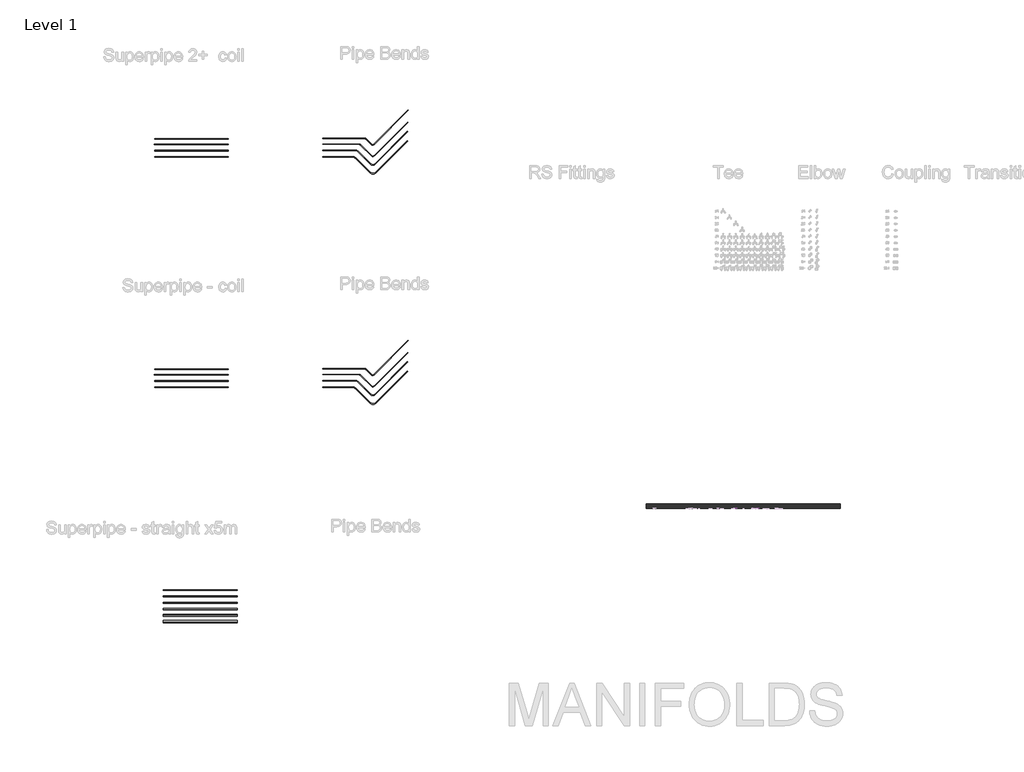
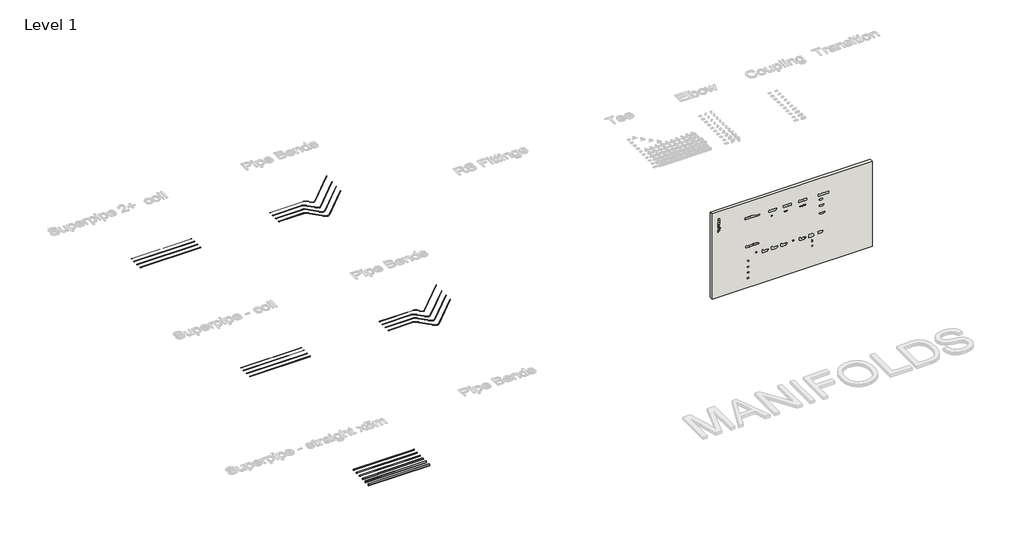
# One storey, part 1 of 57: 38 pipe segments, 16 pipe fittings, 3 valves, 1 wall.
"""IFC4 building model written with IfcOpenShell, lengths in millimetres."""

from ifc_helpers import new_model, si_unit, point, frame, frame_2d, origin, place, context, project, spatial, polyline, circle_curve, trimmed, segment, composite_curve, outline, extrude, transform, mapped, element, save
from components import pipe_bend_eb0728c1, pipe_bend_d9dde6bf, pipe_bend_f4e2ce4f, pipe_bend_7dc21ba6, pipe_bend_fe3f6248, pipe_bend_82ffcff3, pipe_bend_90816637, pipe_bend_7fa1795d, mounting_plate_curved_ba3850a4, mounting_plate_double_c830053c, mounting_plate_single_762f868f

model = new_model("IFC4")

# Units and contexts
model_context = context("Model", 3, world=origin())
ifc_project = project(units=[si_unit("LENGTHUNIT", "METRE", prefix="MILLI")], contexts=[model_context])

# Site, building, storey
site = spatial("IfcSite", under=ifc_project)
building = spatial("IfcBuilding", under=site)
storey = spatial("IfcBuildingStorey", under=building, Name="Level 1", Elevation=27.3876384)

# Pipe fittings
placement = place(None, origin())
pipe_bend_shape = pipe_bend_eb0728c1(model_context)
element("IfcPipeFitting", 1, ObjectType="Pipe Bend : Superpipe Pipe bend", at=placement, inside=storey, context=model_context, shape_type="MappedRepresentation", body=[
    mapped(pipe_bend_shape, transform((-3369.3253653, 10832.9038637, 27.3876384), x_axis=(0.7071067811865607, -0.7071067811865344, 0.0), y_axis=(0.7071067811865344, 0.7071067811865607, 0.0), z_axis=(0.0, 0.0, 1.0))),
])
pipe_bend_2_shape = pipe_bend_d9dde6bf(model_context)
element("IfcPipeFitting", 2, ObjectType="Pipe Bend : Superpipe 2-MAX Pipe bend", at=placement, inside=storey, context=model_context, shape_type="MappedRepresentation", body=[
    mapped(pipe_bend_2_shape, transform((-4101.9762256, 21538.9696271, 27.3876384), x_axis=(-0.7071067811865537, 0.7071067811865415, 0.0), y_axis=(-0.7071067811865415, -0.7071067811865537, 0.0), z_axis=(0.0, 0.0, 1.0))),
])
pipe_bend_3_shape = pipe_bend_f4e2ce4f(model_context)
element("IfcPipeFitting", 3, ObjectType="Pipe Bend : Superpipe 2-MAX Pipe bend", at=placement, inside=storey, context=model_context, shape_type="MappedRepresentation", body=[
    mapped(pipe_bend_3_shape, transform((-3359.3966856, 20796.390087, 27.3876384), x_axis=(0.7071067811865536, -0.7071067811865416, 0.0), y_axis=(0.7071067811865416, 0.7071067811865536, 0.0), z_axis=(0.0, 0.0, 1.0))),
])
pipe_bend_4_shape = pipe_bend_7dc21ba6(model_context)
element("IfcPipeFitting", 4, ObjectType="Pipe Bend : Superpipe 2-MAX Pipe bend", at=placement, inside=storey, context=model_context, shape_type="MappedRepresentation", body=[
    mapped(pipe_bend_4_shape, transform((-4228.2285194, 21234.1696271, 27.3876384), x_axis=(-0.7071067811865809, 0.7071067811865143, 0.0), y_axis=(-0.7071067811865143, -0.7071067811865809, 0.0), z_axis=(0.0, 0.0, 1.0))),
])
pipe_bend_5_shape = pipe_bend_fe3f6248(model_context)
element("IfcPipeFitting", 5, ObjectType="Pipe Bend : Superpipe 2-MAX Pipe bend", at=placement, inside=storey, context=model_context, shape_type="MappedRepresentation", body=[
    mapped(pipe_bend_5_shape, transform((-3359.5381069, 20365.4792146, 27.3876384), x_axis=(0.7071067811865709, -0.7071067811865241, 0.0), y_axis=(0.7071067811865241, 0.7071067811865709, 0.0), z_axis=(0.0, 0.0, 1.0))),
])
pipe_bend_6_shape = pipe_bend_82ffcff3(model_context)
element("IfcPipeFitting", 6, ObjectType="Pipe Bend : Superpipe 2-MAX Pipe bend", at=placement, inside=storey, context=model_context, shape_type="MappedRepresentation", body=[
    mapped(pipe_bend_6_shape, transform((-3712.611924, 22115.3990822, 27.3876384), x_axis=(-0.7071067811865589, 0.7071067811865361, 0.0), y_axis=(-0.7071067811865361, -0.7071067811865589, 0.0), z_axis=(0.0, 0.0, 1.0))),
])
pipe_bend_7_shape = pipe_bend_90816637(model_context)
element("IfcPipeFitting", 7, ObjectType="Pipe Bend : Superpipe 2-MAX Pipe bend", at=placement, inside=storey, context=model_context, shape_type="MappedRepresentation", body=[
    mapped(pipe_bend_7_shape, transform((-3977.7121569, 21838.9696271, 27.3876384), x_axis=(-0.7071067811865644, 0.7071067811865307, 0.0), y_axis=(-0.7071067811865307, -0.7071067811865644, 0.0), z_axis=(0.0, 0.0, 1.0))),
])
pipe_bend_8_shape = pipe_bend_7fa1795d(model_context)
element("IfcPipeFitting", 8, ObjectType="Pipe Bend : Superpipe 2-MAX Pipe bend", at=placement, inside=storey, context=model_context, shape_type="MappedRepresentation", body=[
    mapped(pipe_bend_8_shape, transform((-3359.3966856, 21220.6541558, 27.3876384), x_axis=(0.7071067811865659, -0.7071067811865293, 0.0), y_axis=(0.7071067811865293, 0.7071067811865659, 0.0), z_axis=(0.0, 0.0, 1.0))),
])
element("IfcPipeFitting", 9, ObjectType="Pipe Bend : Superpipe Pipe bend", at=placement, inside=storey, context=model_context, shape_type="MappedRepresentation", body=[
    mapped(pipe_bend_2_shape, transform((-4101.9762256, 10599.7609672, 27.3876384), x_axis=(-0.7071067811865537, 0.7071067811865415, 0.0), y_axis=(-0.7071067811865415, -0.7071067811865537, 0.0), z_axis=(0.0, 0.0, 1.0))),
])
element("IfcPipeFitting", 10, ObjectType="Pipe Bend : Superpipe Pipe bend", at=placement, inside=storey, context=model_context, shape_type="MappedRepresentation", body=[
    mapped(pipe_bend_3_shape, transform((-3359.3966856, 9857.1814272, 27.3876384), x_axis=(0.7071067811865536, -0.7071067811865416, 0.0), y_axis=(0.7071067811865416, 0.7071067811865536, 0.0), z_axis=(0.0, 0.0, 1.0))),
])
element("IfcPipeFitting", 11, ObjectType="Pipe Bend : Superpipe Pipe bend", at=placement, inside=storey, context=model_context, shape_type="MappedRepresentation", body=[
    mapped(pipe_bend_4_shape, transform((-4228.2285194, 10294.9609672, 27.3876384), x_axis=(-0.7071067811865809, 0.7071067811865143, 0.0), y_axis=(-0.7071067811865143, -0.7071067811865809, 0.0), z_axis=(0.0, 0.0, 1.0))),
])
element("IfcPipeFitting", 12, ObjectType="Pipe Bend : Superpipe Pipe bend", at=placement, inside=storey, context=model_context, shape_type="MappedRepresentation", body=[
    mapped(pipe_bend_5_shape, transform((-3359.5381069, 9426.2705547, 27.3876384), x_axis=(0.7071067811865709, -0.7071067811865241, 0.0), y_axis=(0.7071067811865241, 0.7071067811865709, 0.0), z_axis=(0.0, 0.0, 1.0))),
])
element("IfcPipeFitting", 13, ObjectType="Pipe Bend : Superpipe Pipe bend", at=placement, inside=storey, context=model_context, shape_type="MappedRepresentation", body=[
    mapped(pipe_bend_6_shape, transform((-3712.611924, 11176.1904223, 27.3876384), x_axis=(-0.7071067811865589, 0.7071067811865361, 0.0), y_axis=(-0.7071067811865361, -0.7071067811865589, 0.0), z_axis=(0.0, 0.0, 1.0))),
])
element("IfcPipeFitting", 14, ObjectType="Pipe Bend : Superpipe Pipe bend", at=placement, inside=storey, context=model_context, shape_type="MappedRepresentation", body=[
    mapped(pipe_bend_7_shape, transform((-3977.7121569, 10899.7609672, 27.3876384), x_axis=(-0.7071067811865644, 0.7071067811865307, 0.0), y_axis=(-0.7071067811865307, -0.7071067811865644, 0.0), z_axis=(0.0, 0.0, 1.0))),
])
element("IfcPipeFitting", 15, ObjectType="Pipe Bend : Superpipe Pipe bend", at=placement, inside=storey, context=model_context, shape_type="MappedRepresentation", body=[
    mapped(pipe_bend_8_shape, transform((-3359.3966856, 10281.4454959, 27.3876384), x_axis=(0.7071067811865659, -0.7071067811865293, 0.0), y_axis=(0.7071067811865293, 0.7071067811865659, 0.0), z_axis=(0.0, 0.0, 1.0))),
])
element("IfcPipeFitting", 16, ObjectType="Pipe Bend : Superpipe 2-MAX Pipe bend", at=placement, inside=storey, context=model_context, shape_type="MappedRepresentation", body=[
    mapped(pipe_bend_shape, transform((-3369.3253653, 21772.1125236, 27.3876384), x_axis=(0.7071067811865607, -0.7071067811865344, 0.0), y_axis=(0.7071067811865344, 0.7071067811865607, 0.0), z_axis=(0.0, 0.0, 1.0))),
])

# Pipe segments
element("IfcPipeSegment", 17, ObjectType="Superpipe - straight x5m", at=placement, inside=storey, context=model_context, shape_type="SweptSolid", body=[
    extrude(outline(composite_curve([segment(trimmed(circle_curve(frame_2d((661.181439, 27.3876384)), 20.0), [point((641.181439, 27.3876384))], [point((661.181439, 47.3876384))], False, "CARTESIAN"), True, "CONTINUOUS"), segment(trimmed(circle_curve(frame_2d((661.181439, 27.3876384)), 20.0), [point((661.181439, 47.3876384))], [point((681.181439, 27.3876384))], False, "CARTESIAN"), True, "CONTINUOUS"), segment(trimmed(circle_curve(frame_2d((661.181439, 27.3876384)), 20.0), [point((681.181439, 27.3876384))], [point((661.181439, 7.3876384))], False, "CARTESIAN"), True, "CONTINUOUS"), segment(trimmed(circle_curve(frame_2d((661.181439, 27.3876384)), 20.0), [point((661.181439, 7.3876384))], [point((641.181439, 27.3876384))], False, "CARTESIAN"), True, "CONTINUOUS")], self_intersect=False)), frame((-13304.4823631, 0.0, 0.0), z_axis=(1.0, 0.0, 0.0), x_axis=(0.0, 1.0, 0.0)), (0.0, 0.0, 1.0), 3500.0),
])
element("IfcPipeSegment", 18, ObjectType="Superpipe - straight x5m", at=placement, inside=storey, context=model_context, shape_type="SweptSolid", body=[
    extrude(outline(composite_curve([segment(trimmed(circle_curve(frame_2d((361.181439, 27.3876384)), 25.0), [point((336.181439, 27.3876384))], [point((361.181439, 52.3876384))], False, "CARTESIAN"), True, "CONTINUOUS"), segment(trimmed(circle_curve(frame_2d((361.181439, 27.3876384)), 25.0), [point((361.181439, 52.3876384))], [point((386.181439, 27.3876384))], False, "CARTESIAN"), True, "CONTINUOUS"), segment(trimmed(circle_curve(frame_2d((361.181439, 27.3876384)), 25.0), [point((386.181439, 27.3876384))], [point((361.181439, 2.3876384))], False, "CARTESIAN"), True, "CONTINUOUS"), segment(trimmed(circle_curve(frame_2d((361.181439, 27.3876384)), 25.0), [point((361.181439, 2.3876384))], [point((336.181439, 27.3876384))], False, "CARTESIAN"), True, "CONTINUOUS")], self_intersect=False)), frame((-13304.4823631, 0.0, 0.0), z_axis=(1.0, 0.0, 0.0), x_axis=(0.0, 1.0, 0.0)), (0.0, 0.0, 1.0), 3500.0),
])
element("IfcPipeSegment", 19, ObjectType="Superpipe - straight x5m", at=placement, inside=storey, context=model_context, shape_type="SweptSolid", body=[
    extrude(outline(composite_curve([segment(trimmed(circle_curve(frame_2d((-238.818561, 27.3876384)), 37.5), [point((-276.318561, 27.3876384))], [point((-238.818561, 64.8876384))], False, "CARTESIAN"), True, "CONTINUOUS"), segment(trimmed(circle_curve(frame_2d((-238.818561, 27.3876384)), 37.5), [point((-238.818561, 64.8876384))], [point((-201.318561, 27.3876384))], False, "CARTESIAN"), True, "CONTINUOUS"), segment(trimmed(circle_curve(frame_2d((-238.818561, 27.3876384)), 37.5), [point((-201.318561, 27.3876384))], [point((-238.818561, -10.1123616))], False, "CARTESIAN"), True, "CONTINUOUS"), segment(trimmed(circle_curve(frame_2d((-238.818561, 27.3876384)), 37.5), [point((-238.818561, -10.1123616))], [point((-276.318561, 27.3876384))], False, "CARTESIAN"), True, "CONTINUOUS")], self_intersect=False)), frame((-13304.4823631, 0.0, 0.0), z_axis=(1.0, 0.0, 0.0), x_axis=(0.0, 1.0, 0.0)), (0.0, 0.0, 1.0), 3500.0),
])
element("IfcPipeSegment", 20, ObjectType="Superpipe - straight x5m", at=placement, inside=storey, context=model_context, shape_type="SweptSolid", body=[
    extrude(outline(composite_curve([segment(trimmed(circle_curve(frame_2d((-538.818561, 27.3876384)), 45.0), [point((-583.818561, 27.3876384))], [point((-538.818561, 72.3876384))], False, "CARTESIAN"), True, "CONTINUOUS"), segment(trimmed(circle_curve(frame_2d((-538.818561, 27.3876384)), 45.0), [point((-538.818561, 72.3876384))], [point((-493.818561, 27.3876384))], False, "CARTESIAN"), True, "CONTINUOUS"), segment(trimmed(circle_curve(frame_2d((-538.818561, 27.3876384)), 45.0), [point((-493.818561, 27.3876384))], [point((-538.818561, -17.6123616))], False, "CARTESIAN"), True, "CONTINUOUS"), segment(trimmed(circle_curve(frame_2d((-538.818561, 27.3876384)), 45.0), [point((-538.818561, -17.6123616))], [point((-583.818561, 27.3876384))], False, "CARTESIAN"), True, "CONTINUOUS")], self_intersect=False)), frame((-13304.4823631, 0.0, 0.0), z_axis=(1.0, 0.0, 0.0), x_axis=(0.0, 1.0, 0.0)), (0.0, 0.0, 1.0), 3500.0),
])
element("IfcPipeSegment", 21, ObjectType="Superpipe - straight x5m", at=placement, inside=storey, context=model_context, shape_type="SweptSolid", body=[
    extrude(outline(composite_curve([segment(trimmed(circle_curve(frame_2d((-838.818561, 27.3876384)), 55.0), [point((-893.818561, 27.3876384))], [point((-838.818561, 82.3876384))], False, "CARTESIAN"), True, "CONTINUOUS"), segment(trimmed(circle_curve(frame_2d((-838.818561, 27.3876384)), 55.0), [point((-838.818561, 82.3876384))], [point((-783.818561, 27.3876384))], False, "CARTESIAN"), True, "CONTINUOUS"), segment(trimmed(circle_curve(frame_2d((-838.818561, 27.3876384)), 55.0), [point((-783.818561, 27.3876384))], [point((-838.818561, -27.6123616))], False, "CARTESIAN"), True, "CONTINUOUS"), segment(trimmed(circle_curve(frame_2d((-838.818561, 27.3876384)), 55.0), [point((-838.818561, -27.6123616))], [point((-893.818561, 27.3876384))], False, "CARTESIAN"), True, "CONTINUOUS")], self_intersect=False)), frame((-13304.4823631, 0.0, 0.0), z_axis=(1.0, 0.0, 0.0), x_axis=(0.0, 1.0, 0.0)), (0.0, 0.0, 1.0), 3500.0),
])
element("IfcPipeSegment", 22, ObjectType="Superpipe - straight x5m", at=placement, inside=storey, context=model_context, shape_type="SweptSolid", body=[
    extrude(outline(composite_curve([segment(trimmed(circle_curve(frame_2d((61.181439, 27.3876384)), 31.5), [point((92.681439, 27.3876384))], [point((61.181439, -4.1123616))], False, "CARTESIAN"), True, "CONTINUOUS"), segment(trimmed(circle_curve(frame_2d((61.181439, 27.3876384)), 31.5), [point((61.181439, -4.1123616))], [point((29.681439, 27.3876384))], False, "CARTESIAN"), True, "CONTINUOUS"), segment(trimmed(circle_curve(frame_2d((61.181439, 27.3876384)), 31.5), [point((29.681439, 27.3876384))], [point((61.181439, 58.8876384))], False, "CARTESIAN"), True, "CONTINUOUS"), segment(trimmed(circle_curve(frame_2d((61.181439, 27.3876384)), 31.5), [point((61.181439, 58.8876384))], [point((92.681439, 27.3876384))], False, "CARTESIAN"), True, "CONTINUOUS")], self_intersect=False)), frame((-13304.4823631, 0.0, 0.0), z_axis=(1.0, 0.0, 0.0), x_axis=(0.0, 1.0, 0.0)), (0.0, 0.0, 1.0), 3500.0),
])
element("IfcPipeSegment", 23, ObjectType="Superpipe 2+ coil", at=placement, inside=storey, context=model_context, shape_type="SweptSolid", body=[
    extrude(outline(composite_curve([segment(trimmed(circle_curve(frame_2d((22094.3722223, 27.3876384)), 8.0), [point((22086.3722223, 27.3876384))], [point((22094.3722223, 35.3876384))], False, "CARTESIAN"), True, "CONTINUOUS"), segment(trimmed(circle_curve(frame_2d((22094.3722223, 27.3876384)), 8.0), [point((22094.3722223, 35.3876384))], [point((22102.3722223, 27.3876384))], False, "CARTESIAN"), True, "CONTINUOUS"), segment(trimmed(circle_curve(frame_2d((22094.3722223, 27.3876384)), 8.0), [point((22102.3722223, 27.3876384))], [point((22094.3722223, 19.3876384))], False, "CARTESIAN"), True, "CONTINUOUS"), segment(trimmed(circle_curve(frame_2d((22094.3722223, 27.3876384)), 8.0), [point((22094.3722223, 19.3876384))], [point((22086.3722223, 27.3876384))], False, "CARTESIAN"), True, "CONTINUOUS")], self_intersect=False)), frame((-13721.8421438, 0.0, 0.0), z_axis=(1.0, 0.0, 0.0), x_axis=(0.0, 1.0, 0.0)), (0.0, 0.0, 1.0), 3490.872583),
])
element("IfcPipeSegment", 24, ObjectType="Superpipe 2+ coil", at=placement, inside=storey, context=model_context, shape_type="SweptSolid", body=[
    extrude(outline(composite_curve([segment(trimmed(circle_curve(frame_2d((21831.7152238, 27.3876384)), 10.0), [point((21821.7152238, 27.3876384))], [point((21831.7152238, 37.3876384))], False, "CARTESIAN"), True, "CONTINUOUS"), segment(trimmed(circle_curve(frame_2d((21831.7152238, 27.3876384)), 10.0), [point((21831.7152238, 37.3876384))], [point((21841.7152238, 27.3876384))], False, "CARTESIAN"), True, "CONTINUOUS"), segment(trimmed(circle_curve(frame_2d((21831.7152238, 27.3876384)), 10.0), [point((21841.7152238, 27.3876384))], [point((21831.7152238, 17.3876384))], False, "CARTESIAN"), True, "CONTINUOUS"), segment(trimmed(circle_curve(frame_2d((21831.7152238, 27.3876384)), 10.0), [point((21831.7152238, 17.3876384))], [point((21821.7152238, 27.3876384))], False, "CARTESIAN"), True, "CONTINUOUS")], self_intersect=False)), frame((-13730.9695608, 0.0, 0.0), z_axis=(1.0, 0.0, 0.0), x_axis=(0.0, 1.0, 0.0)), (0.0, 0.0, 1.0), 3500.0),
])
element("IfcPipeSegment", 25, ObjectType="Superpipe 2+ coil", at=placement, inside=storey, context=model_context, shape_type="SweptSolid", body=[
    extrude(outline(composite_curve([segment(trimmed(circle_curve(frame_2d((21531.7152238, 27.3876384)), 12.5), [point((21519.2152238, 27.3876384))], [point((21531.7152238, 39.8876384))], False, "CARTESIAN"), True, "CONTINUOUS"), segment(trimmed(circle_curve(frame_2d((21531.7152238, 27.3876384)), 12.5), [point((21531.7152238, 39.8876384))], [point((21544.2152238, 27.3876384))], False, "CARTESIAN"), True, "CONTINUOUS"), segment(trimmed(circle_curve(frame_2d((21531.7152238, 27.3876384)), 12.5), [point((21544.2152238, 27.3876384))], [point((21531.7152238, 14.8876384))], False, "CARTESIAN"), True, "CONTINUOUS"), segment(trimmed(circle_curve(frame_2d((21531.7152238, 27.3876384)), 12.5), [point((21531.7152238, 14.8876384))], [point((21519.2152238, 27.3876384))], False, "CARTESIAN"), True, "CONTINUOUS")], self_intersect=False)), frame((-13721.8421438, 0.0, 0.0), z_axis=(1.0, 0.0, 0.0), x_axis=(0.0, 1.0, 0.0)), (0.0, 0.0, 1.0), 3490.872583),
])
element("IfcPipeSegment", 26, ObjectType="Superpipe 2+ coil", at=placement, inside=storey, context=model_context, shape_type="SweptSolid", body=[
    extrude(outline(composite_curve([segment(trimmed(circle_curve(frame_2d((21231.7152238, 27.3876384)), 16.0), [point((21215.7152238, 27.3876384))], [point((21231.7152238, 43.3876384))], False, "CARTESIAN"), True, "CONTINUOUS"), segment(trimmed(circle_curve(frame_2d((21231.7152238, 27.3876384)), 16.0), [point((21231.7152238, 43.3876384))], [point((21247.7152238, 27.3876384))], False, "CARTESIAN"), True, "CONTINUOUS"), segment(trimmed(circle_curve(frame_2d((21231.7152238, 27.3876384)), 16.0), [point((21247.7152238, 27.3876384))], [point((21231.7152238, 11.3876384))], False, "CARTESIAN"), True, "CONTINUOUS"), segment(trimmed(circle_curve(frame_2d((21231.7152238, 27.3876384)), 16.0), [point((21231.7152238, 11.3876384))], [point((21215.7152238, 27.3876384))], False, "CARTESIAN"), True, "CONTINUOUS")], self_intersect=False)), frame((-13717.2857947, 0.0, 0.0), z_axis=(1.0, 0.0, 0.0), x_axis=(0.0, 1.0, 0.0)), (0.0, 0.0, 1.0), 3486.3162338),
])
element("IfcPipeSegment", 27, ObjectType="Superpipe 2+ coil", at=placement, inside=storey, context=model_context, shape_type="SweptSolid", body=[
    extrude(outline(composite_curve([segment(trimmed(circle_curve(frame_2d((21538.9696271, 27.3876384)), 12.5), [point((21526.4696271, 27.3876384))], [point((21538.9696271, 39.8876384))], False, "CARTESIAN"), True, "CONTINUOUS"), segment(trimmed(circle_curve(frame_2d((21538.9696271, 27.3876384)), 12.5), [point((21538.9696271, 39.8876384))], [point((21551.4696271, 27.3876384))], False, "CARTESIAN"), True, "CONTINUOUS"), segment(trimmed(circle_curve(frame_2d((21538.9696271, 27.3876384)), 12.5), [point((21551.4696271, 27.3876384))], [point((21538.9696271, 14.8876384))], False, "CARTESIAN"), True, "CONTINUOUS"), segment(trimmed(circle_curve(frame_2d((21538.9696271, 27.3876384)), 12.5), [point((21538.9696271, 14.8876384))], [point((21526.4696271, 27.3876384))], False, "CARTESIAN"), True, "CONTINUOUS")], self_intersect=False)), frame((-5730.9695608, 0.0, 0.0), z_axis=(1.0, 0.0, 0.0), x_axis=(0.0, 1.0, 0.0)), (0.0, 0.0, 1.0), 1575.2166399),
])
element("IfcPipeSegment", 28, ObjectType="Superpipe 2+ coil", at=placement, inside=storey, context=model_context, shape_type="SweptSolid", body=[
    extrude(outline(composite_curve([segment(trimmed(circle_curve(frame_2d((0.0, -12.5)), 12.5), [point((-12.5, -12.5))], [point((0.0, 0.0))], False, "CARTESIAN"), True, "CONTINUOUS"), segment(trimmed(circle_curve(frame_2d((0.0, -12.5)), 12.5), [point((0.0, 0.0))], [point((12.5, -12.5))], False, "CARTESIAN"), True, "CONTINUOUS"), segment(trimmed(circle_curve(frame_2d((0.0, -12.5)), 12.5), [point((12.5, -12.5))], [point((0.0, -25.0))], False, "CARTESIAN"), True, "CONTINUOUS"), segment(trimmed(circle_curve(frame_2d((0.0, -12.5)), 12.5), [point((0.0, -25.0))], [point((-12.5, -12.5))], False, "CARTESIAN"), True, "CONTINUOUS")], self_intersect=False)), frame((-3449.1992468, 20886.1926483, 14.8876384), z_axis=(-0.7071067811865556, 0.7071067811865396, 0.0), x_axis=(0.7071067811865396, 0.7071067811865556, 0.0)), (0.0, 0.0, 1.0), 869.3893614),
])
element("IfcPipeSegment", 29, ObjectType="Superpipe 2+ coil", at=placement, inside=storey, context=model_context, shape_type="SweptSolid", body=[
    extrude(outline(composite_curve([segment(trimmed(circle_curve(frame_2d((0.0, 12.5)), 12.5), [point((12.5, 12.5))], [point((0.0, 0.0))], False, "CARTESIAN"), True, "CONTINUOUS"), segment(trimmed(circle_curve(frame_2d((0.0, 12.5)), 12.5), [point((0.0, 0.0))], [point((-12.4999999, 12.5))], False, "CARTESIAN"), True, "CONTINUOUS"), segment(trimmed(circle_curve(frame_2d((0.0, 12.5)), 12.5), [point((-12.4999999, 12.5))], [point((0.0, 25.0))], False, "CARTESIAN"), True, "CONTINUOUS"), segment(trimmed(circle_curve(frame_2d((0.0, 12.5)), 12.5), [point((0.0, 25.0))], [point((12.5, 12.5))], False, "CARTESIAN"), True, "CONTINUOUS")], self_intersect=False)), frame((-3269.5941244, 20886.1926483, 39.8876384), z_axis=(0.7071067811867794, 0.7071067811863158, 0.0), x_axis=(0.7071067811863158, -0.7071067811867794, 0.0)), (0.0, 0.0, 1.0), 2195.2640687),
])
element("IfcPipeSegment", 30, ObjectType="Superpipe 2+ coil", at=placement, inside=storey, context=model_context, shape_type="SweptSolid", body=[
    extrude(outline(composite_curve([segment(trimmed(circle_curve(frame_2d((0.0, -16.0)), 16.0), [point((-16.0, -16.0))], [point((0.0, 0.0))], False, "CARTESIAN"), True, "CONTINUOUS"), segment(trimmed(circle_curve(frame_2d((0.0, -16.0)), 16.0), [point((0.0, 0.0))], [point((16.0, -16.0))], False, "CARTESIAN"), True, "CONTINUOUS"), segment(trimmed(circle_curve(frame_2d((0.0, -16.0)), 16.0), [point((16.0, -16.0))], [point((0.0, -32.0))], False, "CARTESIAN"), True, "CONTINUOUS"), segment(trimmed(circle_curve(frame_2d((0.0, -16.0)), 16.0), [point((0.0, -32.0))], [point((-16.0, -16.0))], False, "CARTESIAN"), True, "CONTINUOUS")], self_intersect=False)), frame((-3474.0894055, 20480.0305131, 11.3876384), z_axis=(-0.7071067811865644, 0.7071067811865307, 0.0), x_axis=(0.7071067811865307, 0.7071067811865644, 0.0)), (0.0, 0.0, 1.0), 998.2395929),
])
element("IfcPipeSegment", 31, ObjectType="Superpipe 2+ coil", at=placement, inside=storey, context=model_context, shape_type="SweptSolid", body=[
    extrude(outline(composite_curve([segment(trimmed(circle_curve(frame_2d((0.0, 16.0)), 16.0), [point((16.0, 16.0))], [point((0.0, 0.0))], False, "CARTESIAN"), True, "CONTINUOUS"), segment(trimmed(circle_curve(frame_2d((0.0, 16.0)), 16.0), [point((0.0, 0.0))], [point((-16.0, 16.0))], False, "CARTESIAN"), True, "CONTINUOUS"), segment(trimmed(circle_curve(frame_2d((0.0, 16.0)), 16.0), [point((-16.0, 16.0))], [point((0.0, 32.0))], False, "CARTESIAN"), True, "CONTINUOUS"), segment(trimmed(circle_curve(frame_2d((0.0, 16.0)), 16.0), [point((0.0, 32.0))], [point((16.0, 16.0))], False, "CARTESIAN"), True, "CONTINUOUS")], self_intersect=False)), frame((-3244.9868084, 20480.0305131, 43.3876384), z_axis=(0.7071067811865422, 0.7071067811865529, 0.0), x_axis=(0.7071067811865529, -0.7071067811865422, 0.0)), (0.0, 0.0, 1.0), 2149.2640687),
])
element("IfcPipeSegment", 32, ObjectType="Superpipe 2+ coil", at=placement, inside=storey, context=model_context, shape_type="SweptSolid", body=[
    extrude(outline(composite_curve([segment(trimmed(circle_curve(frame_2d((22115.3990822, 27.3876384)), 8.0), [point((22107.3990822, 27.3876384))], [point((22115.3990822, 35.3876384))], False, "CARTESIAN"), True, "CONTINUOUS"), segment(trimmed(circle_curve(frame_2d((22115.3990822, 27.3876384)), 8.0), [point((22115.3990822, 35.3876384))], [point((22123.3990822, 27.3876384))], False, "CARTESIAN"), True, "CONTINUOUS"), segment(trimmed(circle_curve(frame_2d((22115.3990822, 27.3876384)), 8.0), [point((22123.3990822, 27.3876384))], [point((22115.3990822, 19.3876384))], False, "CARTESIAN"), True, "CONTINUOUS"), segment(trimmed(circle_curve(frame_2d((22115.3990822, 27.3876384)), 8.0), [point((22115.3990822, 19.3876384))], [point((22107.3990822, 27.3876384))], False, "CARTESIAN"), True, "CONTINUOUS")], self_intersect=False)), frame((-5727.3990159, 0.0, 0.0), z_axis=(1.0, 0.0, 0.0), x_axis=(0.0, 1.0, 0.0)), (0.0, 0.0, 1.0), 1979.650007),
])
element("IfcPipeSegment", 33, ObjectType="Superpipe 2+ coil", at=placement, inside=storey, context=model_context, shape_type="SweptSolid", body=[
    extrude(outline(composite_curve([segment(trimmed(circle_curve(frame_2d((0.0, -8.0)), 8.0), [point((-8.0, -8.0))], [point((0.0, 0.0))], False, "CARTESIAN"), True, "CONTINUOUS"), segment(trimmed(circle_curve(frame_2d((0.0, -8.0)), 8.0), [point((0.0, 0.0))], [point((8.0, -8.0))], False, "CARTESIAN"), True, "CONTINUOUS"), segment(trimmed(circle_curve(frame_2d((0.0, -8.0)), 8.0), [point((8.0, -8.0))], [point((0.0, -16.0))], False, "CARTESIAN"), True, "CONTINUOUS"), segment(trimmed(circle_curve(frame_2d((0.0, -8.0)), 8.0), [point((0.0, -16.0))], [point((-8.0, -8.0))], False, "CARTESIAN"), True, "CONTINUOUS")], self_intersect=False)), frame((-3427.3081214, 21830.0952796, 19.3876384), z_axis=(-0.7071067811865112, 0.707106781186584, 0.0), x_axis=(0.707106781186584, 0.7071067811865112, 0.0)), (0.0, 0.0, 1.0), 368.343422),
])
element("IfcPipeSegment", 34, ObjectType="Superpipe 2+ coil", at=placement, inside=storey, context=model_context, shape_type="SweptSolid", body=[
    extrude(outline(composite_curve([segment(trimmed(circle_curve(frame_2d((0.0, 8.0)), 8.0), [point((8.0, 8.0))], [point((0.0, 0.0))], False, "CARTESIAN"), True, "CONTINUOUS"), segment(trimmed(circle_curve(frame_2d((0.0, 8.0)), 8.0), [point((0.0, 0.0))], [point((-8.0, 8.0))], False, "CARTESIAN"), True, "CONTINUOUS"), segment(trimmed(circle_curve(frame_2d((0.0, 8.0)), 8.0), [point((-8.0, 8.0))], [point((0.0, 16.0))], False, "CARTESIAN"), True, "CONTINUOUS"), segment(trimmed(circle_curve(frame_2d((0.0, 8.0)), 8.0), [point((0.0, 16.0))], [point((8.0, 8.0))], False, "CARTESIAN"), True, "CONTINUOUS")], self_intersect=False)), frame((-3311.3426093, 21830.0952796, 35.3876384), z_axis=(0.7071067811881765, 0.7071067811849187, 0.0), x_axis=(0.7071067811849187, -0.7071067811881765, 0.0)), (0.0, 0.0, 1.0), 2295.3548553),
])
element("IfcPipeSegment", 35, ObjectType="Superpipe 2+ coil", at=placement, inside=storey, context=model_context, shape_type="SweptSolid", body=[
    extrude(outline(composite_curve([segment(trimmed(circle_curve(frame_2d((21838.9696271, 27.3876384)), 10.0), [point((21848.9696271, 27.3876384))], [point((21838.9696271, 17.3876384))], False, "CARTESIAN"), True, "CONTINUOUS"), segment(trimmed(circle_curve(frame_2d((21838.9696271, 27.3876384)), 10.0), [point((21838.9696271, 17.3876384))], [point((21828.9696271, 27.3876384))], False, "CARTESIAN"), True, "CONTINUOUS"), segment(trimmed(circle_curve(frame_2d((21838.9696271, 27.3876384)), 10.0), [point((21828.9696271, 27.3876384))], [point((21838.9696271, 37.3876384))], False, "CARTESIAN"), True, "CONTINUOUS"), segment(trimmed(circle_curve(frame_2d((21838.9696271, 27.3876384)), 10.0), [point((21838.9696271, 37.3876384))], [point((21848.9696271, 27.3876384))], False, "CARTESIAN"), True, "CONTINUOUS")], self_intersect=False)), frame((-5730.9695608, 0.0, 0.0), z_axis=(1.0, 0.0, 0.0), x_axis=(0.0, 1.0, 0.0)), (0.0, 0.0, 1.0), 1709.8360477),
])
element("IfcPipeSegment", 36, ObjectType="Superpipe 2+ coil", at=placement, inside=storey, context=model_context, shape_type="SweptSolid", body=[
    extrude(outline(composite_curve([segment(trimmed(circle_curve(frame_2d((0.0, 10.0)), 10.0), [point((10.0, 10.0))], [point((0.0, 0.0))], False, "CARTESIAN"), True, "CONTINUOUS"), segment(trimmed(circle_curve(frame_2d((0.0, 10.0)), 10.0), [point((0.0, 0.0))], [point((-10.0, 10.0))], False, "CARTESIAN"), True, "CONTINUOUS"), segment(trimmed(circle_curve(frame_2d((0.0, 10.0)), 10.0), [point((-10.0, 10.0))], [point((0.0, 20.0))], False, "CARTESIAN"), True, "CONTINUOUS"), segment(trimmed(circle_curve(frame_2d((0.0, 10.0)), 10.0), [point((0.0, 20.0))], [point((10.0, 10.0))], False, "CARTESIAN"), True, "CONTINUOUS")], self_intersect=False)), frame((-3431.5215773, 21292.7790474, 37.3876384), z_axis=(-0.7071067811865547, 0.7071067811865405, 0.0), x_axis=(0.7071067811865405, 0.7071067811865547, 0.0)), (0.0, 0.0, 1.0), 729.0087692),
])
element("IfcPipeSegment", 37, ObjectType="Superpipe 2+ coil", at=placement, inside=storey, context=model_context, shape_type="SweptSolid", body=[
    extrude(outline(composite_curve([segment(trimmed(circle_curve(frame_2d((0.0, -10.0)), 10.0), [point((-10.0, -10.0))], [point((0.0, 0.0))], False, "CARTESIAN"), True, "CONTINUOUS"), segment(trimmed(circle_curve(frame_2d((0.0, -10.0)), 10.0), [point((0.0, 0.0))], [point((10.0, -10.0))], False, "CARTESIAN"), True, "CONTINUOUS"), segment(trimmed(circle_curve(frame_2d((0.0, -10.0)), 10.0), [point((10.0, -10.0))], [point((0.0, -20.0))], False, "CARTESIAN"), True, "CONTINUOUS"), segment(trimmed(circle_curve(frame_2d((0.0, -10.0)), 10.0), [point((0.0, -20.0))], [point((-10.0, -10.0))], False, "CARTESIAN"), True, "CONTINUOUS")], self_intersect=False)), frame((-3287.2717939, 21292.7790474, 17.3876384), z_axis=(0.7071067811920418, 0.7071067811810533, 0.0), x_axis=(0.7071067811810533, -0.7071067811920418, 0.0)), (0.0, 0.0, 1.0), 2240.2640687),
])
element("IfcPipeSegment", 38, ObjectType="Superpipe - coil", at=placement, inside=storey, context=model_context, shape_type="SweptSolid", body=[
    extrude(outline(composite_curve([segment(trimmed(circle_curve(frame_2d((11155.1635625, 27.3876384)), 8.0), [point((11147.1635625, 27.3876384))], [point((11155.1635625, 35.3876384))], False, "CARTESIAN"), True, "CONTINUOUS"), segment(trimmed(circle_curve(frame_2d((11155.1635625, 27.3876384)), 8.0), [point((11155.1635625, 35.3876384))], [point((11163.1635625, 27.3876384))], False, "CARTESIAN"), True, "CONTINUOUS"), segment(trimmed(circle_curve(frame_2d((11155.1635625, 27.3876384)), 8.0), [point((11163.1635625, 27.3876384))], [point((11155.1635625, 19.3876384))], False, "CARTESIAN"), True, "CONTINUOUS"), segment(trimmed(circle_curve(frame_2d((11155.1635625, 27.3876384)), 8.0), [point((11155.1635625, 19.3876384))], [point((11147.1635625, 27.3876384))], False, "CARTESIAN"), True, "CONTINUOUS")], self_intersect=False)), frame((-13721.8421438, 0.0, 0.0), z_axis=(1.0, 0.0, 0.0), x_axis=(0.0, 1.0, 0.0)), (0.0, 0.0, 1.0), 3490.872583),
])
element("IfcPipeSegment", 39, ObjectType="Superpipe - coil", at=placement, inside=storey, context=model_context, shape_type="SweptSolid", body=[
    extrude(outline(composite_curve([segment(trimmed(circle_curve(frame_2d((10892.506564, 27.3876384)), 10.0), [point((10882.506564, 27.3876384))], [point((10892.506564, 37.3876384))], False, "CARTESIAN"), True, "CONTINUOUS"), segment(trimmed(circle_curve(frame_2d((10892.506564, 27.3876384)), 10.0), [point((10892.506564, 37.3876384))], [point((10902.506564, 27.3876384))], False, "CARTESIAN"), True, "CONTINUOUS"), segment(trimmed(circle_curve(frame_2d((10892.506564, 27.3876384)), 10.0), [point((10902.506564, 27.3876384))], [point((10892.506564, 17.3876384))], False, "CARTESIAN"), True, "CONTINUOUS"), segment(trimmed(circle_curve(frame_2d((10892.506564, 27.3876384)), 10.0), [point((10892.506564, 17.3876384))], [point((10882.506564, 27.3876384))], False, "CARTESIAN"), True, "CONTINUOUS")], self_intersect=False)), frame((-13730.9695608, 0.0, 0.0), z_axis=(1.0, 0.0, 0.0), x_axis=(0.0, 1.0, 0.0)), (0.0, 0.0, 1.0), 3500.0),
])
element("IfcPipeSegment", 40, ObjectType="Superpipe - coil", at=placement, inside=storey, context=model_context, shape_type="SweptSolid", body=[
    extrude(outline(composite_curve([segment(trimmed(circle_curve(frame_2d((10592.506564, 27.3876384)), 12.5), [point((10580.006564, 27.3876384))], [point((10592.506564, 39.8876384))], False, "CARTESIAN"), True, "CONTINUOUS"), segment(trimmed(circle_curve(frame_2d((10592.506564, 27.3876384)), 12.5), [point((10592.506564, 39.8876384))], [point((10605.006564, 27.3876384))], False, "CARTESIAN"), True, "CONTINUOUS"), segment(trimmed(circle_curve(frame_2d((10592.506564, 27.3876384)), 12.5), [point((10605.006564, 27.3876384))], [point((10592.506564, 14.8876384))], False, "CARTESIAN"), True, "CONTINUOUS"), segment(trimmed(circle_curve(frame_2d((10592.506564, 27.3876384)), 12.5), [point((10592.506564, 14.8876384))], [point((10580.006564, 27.3876384))], False, "CARTESIAN"), True, "CONTINUOUS")], self_intersect=False)), frame((-13721.8421438, 0.0, 0.0), z_axis=(1.0, 0.0, 0.0), x_axis=(0.0, 1.0, 0.0)), (0.0, 0.0, 1.0), 3490.872583),
])
element("IfcPipeSegment", 41, ObjectType="Superpipe - coil", at=placement, inside=storey, context=model_context, shape_type="SweptSolid", body=[
    extrude(outline(composite_curve([segment(trimmed(circle_curve(frame_2d((10292.506564, 27.3876384)), 16.0), [point((10276.506564, 27.3876384))], [point((10292.506564, 43.3876384))], False, "CARTESIAN"), True, "CONTINUOUS"), segment(trimmed(circle_curve(frame_2d((10292.506564, 27.3876384)), 16.0), [point((10292.506564, 43.3876384))], [point((10308.506564, 27.3876384))], False, "CARTESIAN"), True, "CONTINUOUS"), segment(trimmed(circle_curve(frame_2d((10292.506564, 27.3876384)), 16.0), [point((10308.506564, 27.3876384))], [point((10292.506564, 11.3876384))], False, "CARTESIAN"), True, "CONTINUOUS"), segment(trimmed(circle_curve(frame_2d((10292.506564, 27.3876384)), 16.0), [point((10292.506564, 11.3876384))], [point((10276.506564, 27.3876384))], False, "CARTESIAN"), True, "CONTINUOUS")], self_intersect=False)), frame((-13717.2857947, 0.0, 0.0), z_axis=(1.0, 0.0, 0.0), x_axis=(0.0, 1.0, 0.0)), (0.0, 0.0, 1.0), 3486.3162338),
])
element("IfcPipeSegment", 42, ObjectType="Superpipe - coil", at=placement, inside=storey, context=model_context, shape_type="SweptSolid", body=[
    extrude(outline(composite_curve([segment(trimmed(circle_curve(frame_2d((10599.7609672, 27.3876384)), 12.5), [point((10587.2609672, 27.3876384))], [point((10599.7609672, 39.8876384))], False, "CARTESIAN"), True, "CONTINUOUS"), segment(trimmed(circle_curve(frame_2d((10599.7609672, 27.3876384)), 12.5), [point((10599.7609672, 39.8876384))], [point((10612.2609672, 27.3876384))], False, "CARTESIAN"), True, "CONTINUOUS"), segment(trimmed(circle_curve(frame_2d((10599.7609672, 27.3876384)), 12.5), [point((10612.2609672, 27.3876384))], [point((10599.7609672, 14.8876384))], False, "CARTESIAN"), True, "CONTINUOUS"), segment(trimmed(circle_curve(frame_2d((10599.7609672, 27.3876384)), 12.5), [point((10599.7609672, 14.8876384))], [point((10587.2609672, 27.3876384))], False, "CARTESIAN"), True, "CONTINUOUS")], self_intersect=False)), frame((-5730.9695608, 0.0, 0.0), z_axis=(1.0, 0.0, 0.0), x_axis=(0.0, 1.0, 0.0)), (0.0, 0.0, 1.0), 1575.2166399),
])
element("IfcPipeSegment", 43, ObjectType="Superpipe - coil", at=placement, inside=storey, context=model_context, shape_type="SweptSolid", body=[
    extrude(outline(composite_curve([segment(trimmed(circle_curve(frame_2d((0.0, -12.5)), 12.5), [point((-12.5, -12.5))], [point((0.0, 0.0))], False, "CARTESIAN"), True, "CONTINUOUS"), segment(trimmed(circle_curve(frame_2d((0.0, -12.5)), 12.5), [point((0.0, 0.0))], [point((12.5, -12.5))], False, "CARTESIAN"), True, "CONTINUOUS"), segment(trimmed(circle_curve(frame_2d((0.0, -12.5)), 12.5), [point((12.5, -12.5))], [point((0.0, -25.0))], False, "CARTESIAN"), True, "CONTINUOUS"), segment(trimmed(circle_curve(frame_2d((0.0, -12.5)), 12.5), [point((0.0, -25.0))], [point((-12.5, -12.5))], False, "CARTESIAN"), True, "CONTINUOUS")], self_intersect=False)), frame((-3449.1992468, 9946.9839884, 14.8876384), z_axis=(-0.7071067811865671, 0.707106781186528, 0.0), x_axis=(0.707106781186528, 0.7071067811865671, 0.0)), (0.0, 0.0, 1.0), 869.3893614),
])
element("IfcPipeSegment", 44, ObjectType="Superpipe - coil", at=placement, inside=storey, context=model_context, shape_type="SweptSolid", body=[
    extrude(outline(composite_curve([segment(trimmed(circle_curve(frame_2d((0.0, 12.5)), 12.5), [point((12.5, 12.5))], [point((0.0, 0.0))], False, "CARTESIAN"), True, "CONTINUOUS"), segment(trimmed(circle_curve(frame_2d((0.0, 12.5)), 12.5), [point((0.0, 0.0))], [point((-12.5, 12.5))], False, "CARTESIAN"), True, "CONTINUOUS"), segment(trimmed(circle_curve(frame_2d((0.0, 12.5)), 12.5), [point((-12.5, 12.5))], [point((0.0, 25.0))], False, "CARTESIAN"), True, "CONTINUOUS"), segment(trimmed(circle_curve(frame_2d((0.0, 12.5)), 12.5), [point((0.0, 25.0))], [point((12.5, 12.5))], False, "CARTESIAN"), True, "CONTINUOUS")], self_intersect=False)), frame((-3269.5941244, 9946.9839884, 39.8876384), z_axis=(0.7071067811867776, 0.7071067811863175, 0.0), x_axis=(0.7071067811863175, -0.7071067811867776, 0.0)), (0.0, 0.0, 1.0), 2195.2640687),
])
element("IfcPipeSegment", 45, ObjectType="Superpipe - coil", at=placement, inside=storey, context=model_context, shape_type="SweptSolid", body=[
    extrude(outline(composite_curve([segment(trimmed(circle_curve(frame_2d((10294.9609672, 27.3876384)), 16.0), [point((10278.9609672, 27.3876384))], [point((10294.9609672, 43.3876384))], False, "CARTESIAN"), True, "CONTINUOUS"), segment(trimmed(circle_curve(frame_2d((10294.9609672, 27.3876384)), 16.0), [point((10294.9609672, 43.3876384))], [point((10310.9609672, 27.3876384))], False, "CARTESIAN"), True, "CONTINUOUS"), segment(trimmed(circle_curve(frame_2d((10294.9609672, 27.3876384)), 16.0), [point((10310.9609672, 27.3876384))], [point((10294.9609672, 11.3876384))], False, "CARTESIAN"), True, "CONTINUOUS"), segment(trimmed(circle_curve(frame_2d((10294.9609672, 27.3876384)), 16.0), [point((10294.9609672, 11.3876384))], [point((10278.9609672, 27.3876384))], False, "CARTESIAN"), True, "CONTINUOUS")], self_intersect=False)), frame((-5730.9695608, 0.0, 0.0), z_axis=(1.0, 0.0, 0.0), x_axis=(0.0, 1.0, 0.0)), (0.0, 0.0, 1.0), 1434.4668714),
])
element("IfcPipeSegment", 46, ObjectType="Superpipe - coil", at=placement, inside=storey, context=model_context, shape_type="SweptSolid", body=[
    extrude(outline(composite_curve([segment(trimmed(circle_curve(frame_2d((0.0, -16.0)), 16.0), [point((-16.0, -16.0))], [point((0.0, 0.0))], False, "CARTESIAN"), True, "CONTINUOUS"), segment(trimmed(circle_curve(frame_2d((0.0, -16.0)), 16.0), [point((0.0, 0.0))], [point((16.0, -16.0))], False, "CARTESIAN"), True, "CONTINUOUS"), segment(trimmed(circle_curve(frame_2d((0.0, -16.0)), 16.0), [point((16.0, -16.0))], [point((0.0, -32.0))], False, "CARTESIAN"), True, "CONTINUOUS"), segment(trimmed(circle_curve(frame_2d((0.0, -16.0)), 16.0), [point((0.0, -32.0))], [point((-16.0, -16.0))], False, "CARTESIAN"), True, "CONTINUOUS")], self_intersect=False)), frame((-3474.0894055, 9540.8218533, 11.3876384), z_axis=(-0.7071067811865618, 0.7071067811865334, 0.0), x_axis=(0.7071067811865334, 0.7071067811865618, 0.0)), (0.0, 0.0, 1.0), 998.2395929),
])
element("IfcPipeSegment", 47, ObjectType="Superpipe - coil", at=placement, inside=storey, context=model_context, shape_type="SweptSolid", body=[
    extrude(outline(composite_curve([segment(trimmed(circle_curve(frame_2d((0.0, 16.0)), 16.0), [point((16.0, 16.0))], [point((0.0, 0.0))], False, "CARTESIAN"), True, "CONTINUOUS"), segment(trimmed(circle_curve(frame_2d((0.0, 16.0)), 16.0), [point((0.0, 0.0))], [point((-16.0, 16.0))], False, "CARTESIAN"), True, "CONTINUOUS"), segment(trimmed(circle_curve(frame_2d((0.0, 16.0)), 16.0), [point((-16.0, 16.0))], [point((0.0, 32.0))], False, "CARTESIAN"), True, "CONTINUOUS"), segment(trimmed(circle_curve(frame_2d((0.0, 16.0)), 16.0), [point((0.0, 32.0))], [point((16.0, 16.0))], False, "CARTESIAN"), True, "CONTINUOUS")], self_intersect=False)), frame((-3244.9868084, 9540.8218533, 43.3876384), z_axis=(0.7071067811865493, 0.7071067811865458, 0.0), x_axis=(0.7071067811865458, -0.7071067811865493, 0.0)), (0.0, 0.0, 1.0), 2149.2640687),
])
element("IfcPipeSegment", 48, ObjectType="Superpipe - coil", at=placement, inside=storey, context=model_context, shape_type="SweptSolid", body=[
    extrude(outline(composite_curve([segment(trimmed(circle_curve(frame_2d((11176.1904223, 27.3876384)), 8.0), [point((11168.1904223, 27.3876384))], [point((11176.1904223, 35.3876384))], False, "CARTESIAN"), True, "CONTINUOUS"), segment(trimmed(circle_curve(frame_2d((11176.1904223, 27.3876384)), 8.0), [point((11176.1904223, 35.3876384))], [point((11184.1904223, 27.3876384))], False, "CARTESIAN"), True, "CONTINUOUS"), segment(trimmed(circle_curve(frame_2d((11176.1904223, 27.3876384)), 8.0), [point((11184.1904223, 27.3876384))], [point((11176.1904223, 19.3876384))], False, "CARTESIAN"), True, "CONTINUOUS"), segment(trimmed(circle_curve(frame_2d((11176.1904223, 27.3876384)), 8.0), [point((11176.1904223, 19.3876384))], [point((11168.1904223, 27.3876384))], False, "CARTESIAN"), True, "CONTINUOUS")], self_intersect=False)), frame((-5727.3990159, 0.0, 0.0), z_axis=(1.0, 0.0, 0.0), x_axis=(0.0, 1.0, 0.0)), (0.0, 0.0, 1.0), 1979.650007),
])
element("IfcPipeSegment", 49, ObjectType="Superpipe - coil", at=placement, inside=storey, context=model_context, shape_type="SweptSolid", body=[
    extrude(outline(composite_curve([segment(trimmed(circle_curve(frame_2d((0.0, -8.0)), 8.0), [point((-8.0000001, -8.0))], [point((0.0, 0.0))], False, "CARTESIAN"), True, "CONTINUOUS"), segment(trimmed(circle_curve(frame_2d((0.0, -8.0)), 8.0), [point((0.0, 0.0))], [point((7.9999999, -8.0))], False, "CARTESIAN"), True, "CONTINUOUS"), segment(trimmed(circle_curve(frame_2d((0.0, -8.0)), 8.0), [point((7.9999999, -8.0))], [point((0.0, -16.0))], False, "CARTESIAN"), True, "CONTINUOUS"), segment(trimmed(circle_curve(frame_2d((0.0, -8.0)), 8.0), [point((0.0, -16.0))], [point((-8.0000001, -8.0))], False, "CARTESIAN"), True, "CONTINUOUS")], self_intersect=False)), frame((-3427.3081214, 10890.8866198, 19.3876384), z_axis=(-0.7071067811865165, 0.7071067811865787, 0.0), x_axis=(0.7071067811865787, 0.7071067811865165, 0.0)), (0.0, 0.0, 1.0), 368.343422),
])
element("IfcPipeSegment", 50, ObjectType="Superpipe - coil", at=placement, inside=storey, context=model_context, shape_type="SweptSolid", body=[
    extrude(outline(composite_curve([segment(trimmed(circle_curve(frame_2d((0.0, 8.0)), 8.0), [point((8.0000001, 8.0))], [point((0.0, 0.0))], False, "CARTESIAN"), True, "CONTINUOUS"), segment(trimmed(circle_curve(frame_2d((0.0, 8.0)), 8.0), [point((0.0, 0.0))], [point((-7.9999999, 8.0))], False, "CARTESIAN"), True, "CONTINUOUS"), segment(trimmed(circle_curve(frame_2d((0.0, 8.0)), 8.0), [point((-7.9999999, 8.0))], [point((0.0, 16.0))], False, "CARTESIAN"), True, "CONTINUOUS"), segment(trimmed(circle_curve(frame_2d((0.0, 8.0)), 8.0), [point((0.0, 16.0))], [point((8.0000001, 8.0))], False, "CARTESIAN"), True, "CONTINUOUS")], self_intersect=False)), frame((-3311.3426093, 10890.8866198, 35.3876384), z_axis=(0.7071067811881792, 0.707106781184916, 0.0), x_axis=(0.707106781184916, -0.7071067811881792, 0.0)), (0.0, 0.0, 1.0), 2295.3548553),
])
element("IfcPipeSegment", 51, ObjectType="Superpipe - coil", at=placement, inside=storey, context=model_context, shape_type="SweptSolid", body=[
    extrude(outline(composite_curve([segment(trimmed(circle_curve(frame_2d((10899.7609672, 27.3876384)), 10.0), [point((10909.7609672, 27.3876384))], [point((10899.7609672, 17.3876384))], False, "CARTESIAN"), True, "CONTINUOUS"), segment(trimmed(circle_curve(frame_2d((10899.7609672, 27.3876384)), 10.0), [point((10899.7609672, 17.3876384))], [point((10889.7609672, 27.3876384))], False, "CARTESIAN"), True, "CONTINUOUS"), segment(trimmed(circle_curve(frame_2d((10899.7609672, 27.3876384)), 10.0), [point((10889.7609672, 27.3876384))], [point((10899.7609672, 37.3876384))], False, "CARTESIAN"), True, "CONTINUOUS"), segment(trimmed(circle_curve(frame_2d((10899.7609672, 27.3876384)), 10.0), [point((10899.7609672, 37.3876384))], [point((10909.7609672, 27.3876384))], False, "CARTESIAN"), True, "CONTINUOUS")], self_intersect=False)), frame((-5730.9695608, 0.0, 0.0), z_axis=(1.0, 0.0, 0.0), x_axis=(0.0, 1.0, 0.0)), (0.0, 0.0, 1.0), 1709.8360477),
])
element("IfcPipeSegment", 52, ObjectType="Superpipe - coil", at=placement, inside=storey, context=model_context, shape_type="SweptSolid", body=[
    extrude(outline(composite_curve([segment(trimmed(circle_curve(frame_2d((0.0, 10.0)), 10.0), [point((10.0, 10.0))], [point((0.0, 0.0))], False, "CARTESIAN"), True, "CONTINUOUS"), segment(trimmed(circle_curve(frame_2d((0.0, 10.0)), 10.0), [point((0.0, 0.0))], [point((-10.0, 10.0))], False, "CARTESIAN"), True, "CONTINUOUS"), segment(trimmed(circle_curve(frame_2d((0.0, 10.0)), 10.0), [point((-10.0, 10.0))], [point((0.0, 20.0))], False, "CARTESIAN"), True, "CONTINUOUS"), segment(trimmed(circle_curve(frame_2d((0.0, 10.0)), 10.0), [point((0.0, 20.0))], [point((10.0, 10.0))], False, "CARTESIAN"), True, "CONTINUOUS")], self_intersect=False)), frame((-3431.5215773, 10353.5703876, 37.3876384), z_axis=(-0.707106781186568, 0.7071067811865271, 0.0), x_axis=(0.7071067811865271, 0.707106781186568, 0.0)), (0.0, 0.0, 1.0), 729.0087692),
])
element("IfcPipeSegment", 53, ObjectType="Superpipe - coil", at=placement, inside=storey, context=model_context, shape_type="SweptSolid", body=[
    extrude(outline(composite_curve([segment(trimmed(circle_curve(frame_2d((0.0, -10.0)), 10.0), [point((-10.0, -10.0))], [point((0.0, 0.0))], False, "CARTESIAN"), True, "CONTINUOUS"), segment(trimmed(circle_curve(frame_2d((0.0, -10.0)), 10.0), [point((0.0, 0.0))], [point((10.0, -10.0))], False, "CARTESIAN"), True, "CONTINUOUS"), segment(trimmed(circle_curve(frame_2d((0.0, -10.0)), 10.0), [point((10.0, -10.0))], [point((0.0, -20.0))], False, "CARTESIAN"), True, "CONTINUOUS"), segment(trimmed(circle_curve(frame_2d((0.0, -10.0)), 10.0), [point((0.0, -20.0))], [point((-10.0, -10.0))], False, "CARTESIAN"), True, "CONTINUOUS")], self_intersect=False)), frame((-3287.2717939, 10353.5703876, 17.3876384), z_axis=(0.7071067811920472, 0.707106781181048, 0.0), x_axis=(0.707106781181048, -0.7071067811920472, 0.0)), (0.0, 0.0, 1.0), 2240.2640687),
])
element("IfcPipeSegment", 54, ObjectType="Superpipe 2+ coil", at=placement, inside=storey, context=model_context, shape_type="SweptSolid", body=[
    extrude(outline(composite_curve([segment(trimmed(circle_curve(frame_2d((21234.1696271, 27.3876384)), 16.0), [point((21250.1696271, 27.3876384))], [point((21234.1696271, 11.3876384))], False, "CARTESIAN"), True, "CONTINUOUS"), segment(trimmed(circle_curve(frame_2d((21234.1696271, 27.3876384)), 16.0), [point((21234.1696271, 11.3876384))], [point((21218.1696271, 27.3876384))], False, "CARTESIAN"), True, "CONTINUOUS"), segment(trimmed(circle_curve(frame_2d((21234.1696271, 27.3876384)), 16.0), [point((21218.1696271, 27.3876384))], [point((21234.1696271, 43.3876384))], False, "CARTESIAN"), True, "CONTINUOUS"), segment(trimmed(circle_curve(frame_2d((21234.1696271, 27.3876384)), 16.0), [point((21234.1696271, 43.3876384))], [point((21250.1696271, 27.3876384))], False, "CARTESIAN"), True, "CONTINUOUS")], self_intersect=False)), frame((-5730.9695608, 0.0, 0.0), z_axis=(1.0, 0.0, 0.0), x_axis=(0.0, 1.0, 0.0)), (0.0, 0.0, 1.0), 1434.4668714),
])

# Valves
mounting_plate_curved_shape = mounting_plate_curved_ba3850a4(model_context)
element("IfcValve", 55, ObjectType="Mounting Plate curved : Superpipe Mounting Plate - 250 mm curved", at=placement, inside=storey, context=model_context, shape_type="MappedRepresentation", body=[
    mapped(mounting_plate_curved_shape, transform((14641.3882146, 4544.8703674, 3908.5359315), x_axis=(1.0, 0.0, 0.0), y_axis=(0.0, 0.0, 1.0), z_axis=(0.0, -1.0, 0.0))),
])
mounting_plate_double_shape = mounting_plate_double_c830053c(model_context)
element("IfcValve", 56, ObjectType="Mounting Plate double : Superpipe Mounting Plate -153 mm double", at=placement, inside=storey, context=model_context, shape_type="MappedRepresentation", body=[
    mapped(mounting_plate_double_shape, transform((13744.468995, 4544.8703674, 3908.5359315), x_axis=(1.0, 0.0, 0.0), y_axis=(0.0, 0.0, 1.0), z_axis=(0.0, -1.0, 0.0))),
])
mounting_plate_single_shape = mounting_plate_single_762f868f(model_context)
element("IfcValve", 57, ObjectType="Mounting Plate single : Superpipe Mounting Plate - 73 mm single", at=placement, inside=storey, context=model_context, shape_type="MappedRepresentation", body=[
    mapped(mounting_plate_single_shape, transform((12998.234075, 4544.8703674, 3908.5359315), x_axis=(1.0, 0.0, 0.0), y_axis=(0.0, 0.0, 1.0), z_axis=(0.0, -1.0, 0.0))),
])

# Wall
element("IfcWall", 58, ObjectType="Generic - 200mm", at=placement, inside=storey, context=model_context, shape_type="SweptSolid", body=[
    extrude(outline(polyline([(18820.2603214, 4544.8703674), (9620.2603214, 4544.8703674), (9620.2603214, 4744.8703674), (18820.2603214, 4744.8703674), (18820.2603214, 4544.8703674)])), frame((0.0, 0.0, 27.3876384), z_axis=(0.0, 0.0, 1.0), x_axis=(1.0, 0.0, 0.0)), (0.0, 0.0, 1.0), 5200.0),
])

save(model, "model.ifc")
